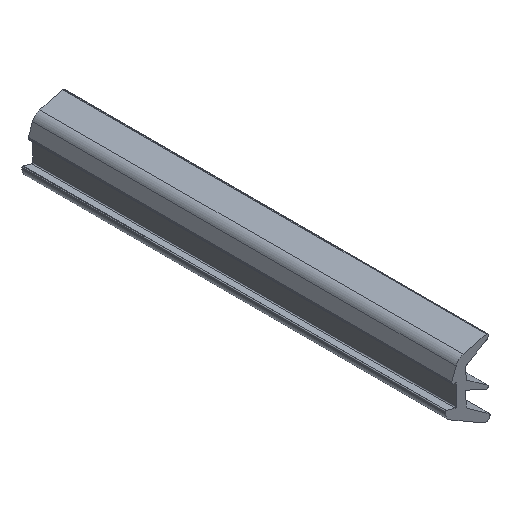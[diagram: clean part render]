
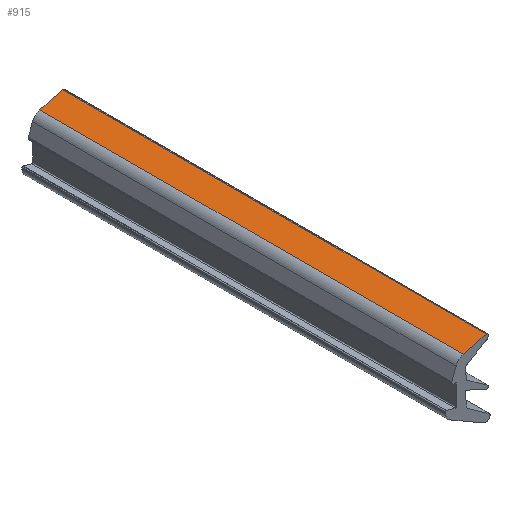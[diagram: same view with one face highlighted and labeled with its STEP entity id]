
A CAD part, isometric view. The second image highlights one B-rep face of the part: STEP entity #915.
In plain terms, the highlighted planar face has unit normal (-0.256, 0, 0.967).
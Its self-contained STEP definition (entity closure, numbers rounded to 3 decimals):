
#73 = DIRECTION ( 'NONE',  ( 0., 1., 0. ) ) ;
#108 = CARTESIAN_POINT ( 'NONE',  ( -0.103, 50., 0.773 ) ) ;
#157 = EDGE_CURVE ( 'NONE', #893, #622, #894, .T. ) ;
#178 = VERTEX_POINT ( 'NONE', #589 ) ;
#180 = DIRECTION ( 'NONE',  ( -0.967, 0., -0.256 ) ) ;
#264 = VECTOR ( 'NONE', #73, 1000. ) ;
#271 = DIRECTION ( 'NONE',  ( 0.256, 0., -0.967 ) ) ;
#342 = AXIS2_PLACEMENT_3D ( 'NONE', #959, #271, #180 ) ;
#354 = DIRECTION ( 'NONE',  ( -0.967, 0., -0.256 ) ) ;
#366 = FACE_OUTER_BOUND ( 'NONE', #804, .T. ) ;
#396 = CARTESIAN_POINT ( 'NONE',  ( -0.103, -50., 0.773 ) ) ;
#409 = VECTOR ( 'NONE', #942, 1000. ) ;
#414 = EDGE_CURVE ( 'NONE', #178, #622, #948, .T. ) ;
#423 = VECTOR ( 'NONE', #481, 1000. ) ;
#436 = LINE ( 'NONE', #554, #264 ) ;
#463 = EDGE_CURVE ( 'NONE', #680, #178, #664, .T. ) ;
#481 = DIRECTION ( 'NONE',  ( -0.967, 0., -0.256 ) ) ;
#543 = ORIENTED_EDGE ( 'NONE', *, *, #780, .T. ) ;
#554 = CARTESIAN_POINT ( 'NONE',  ( -0.103, -50., 0.773 ) ) ;
#589 = CARTESIAN_POINT ( 'NONE',  ( -5.502, -50., -0.659 ) ) ;
#622 = VERTEX_POINT ( 'NONE', #714 ) ;
#664 = LINE ( 'NONE', #833, #1064 ) ;
#667 = CARTESIAN_POINT ( 'NONE',  ( -0.103, 50., 0.773 ) ) ;
#680 = VERTEX_POINT ( 'NONE', #396 ) ;
#703 = ORIENTED_EDGE ( 'NONE', *, *, #463, .F. ) ;
#714 = CARTESIAN_POINT ( 'NONE',  ( -5.502, 50., -0.659 ) ) ;
#780 = EDGE_CURVE ( 'NONE', #680, #893, #436, .T. ) ;
#797 = ORIENTED_EDGE ( 'NONE', *, *, #157, .T. ) ;
#804 = EDGE_LOOP ( 'NONE', ( #797, #1212, #703, #543 ) ) ;
#833 = CARTESIAN_POINT ( 'NONE',  ( -0.103, -50., 0.773 ) ) ;
#893 = VERTEX_POINT ( 'NONE', #667 ) ;
#894 = LINE ( 'NONE', #108, #423 ) ;
#915 = ADVANCED_FACE ( 'NONE', ( #366 ), #946, .F. ) ;
#942 = DIRECTION ( 'NONE',  ( 0., 1., 0. ) ) ;
#946 = PLANE ( 'NONE',  #342 ) ;
#948 = LINE ( 'NONE', #1226, #409 ) ;
#959 = CARTESIAN_POINT ( 'NONE',  ( -0.103, -50., 0.773 ) ) ;
#1064 = VECTOR ( 'NONE', #354, 1000. ) ;
#1212 = ORIENTED_EDGE ( 'NONE', *, *, #414, .F. ) ;
#1226 = CARTESIAN_POINT ( 'NONE',  ( -5.502, -50., -0.659 ) ) ;
